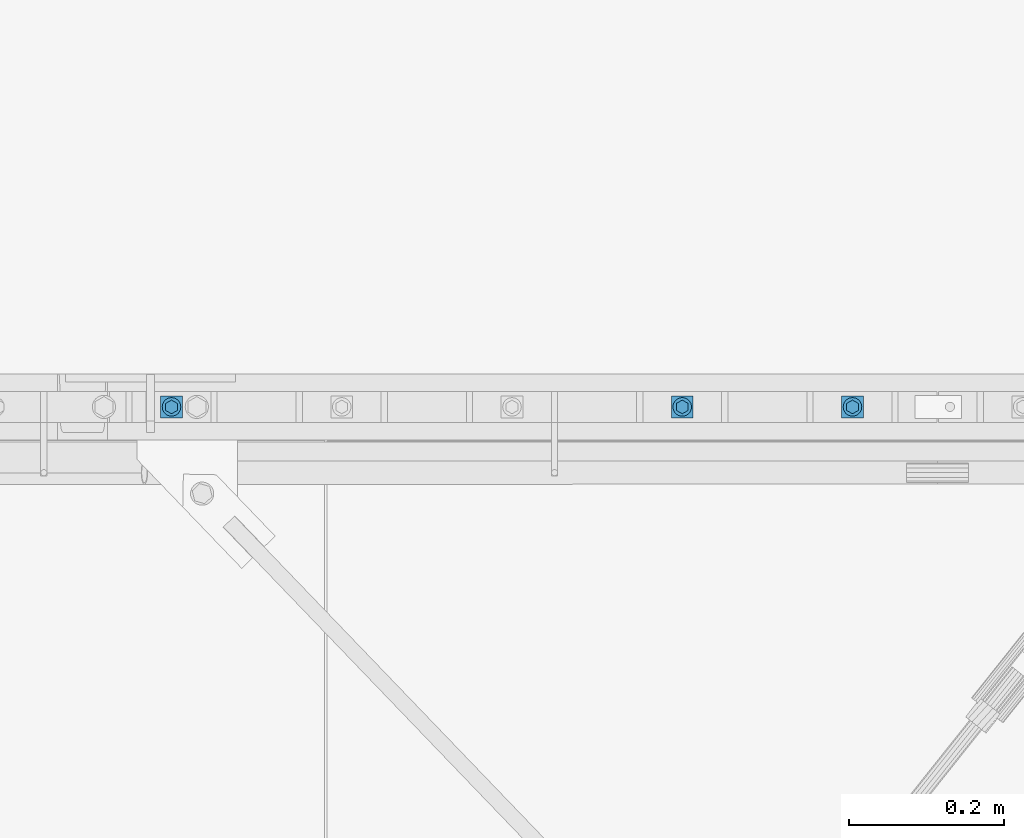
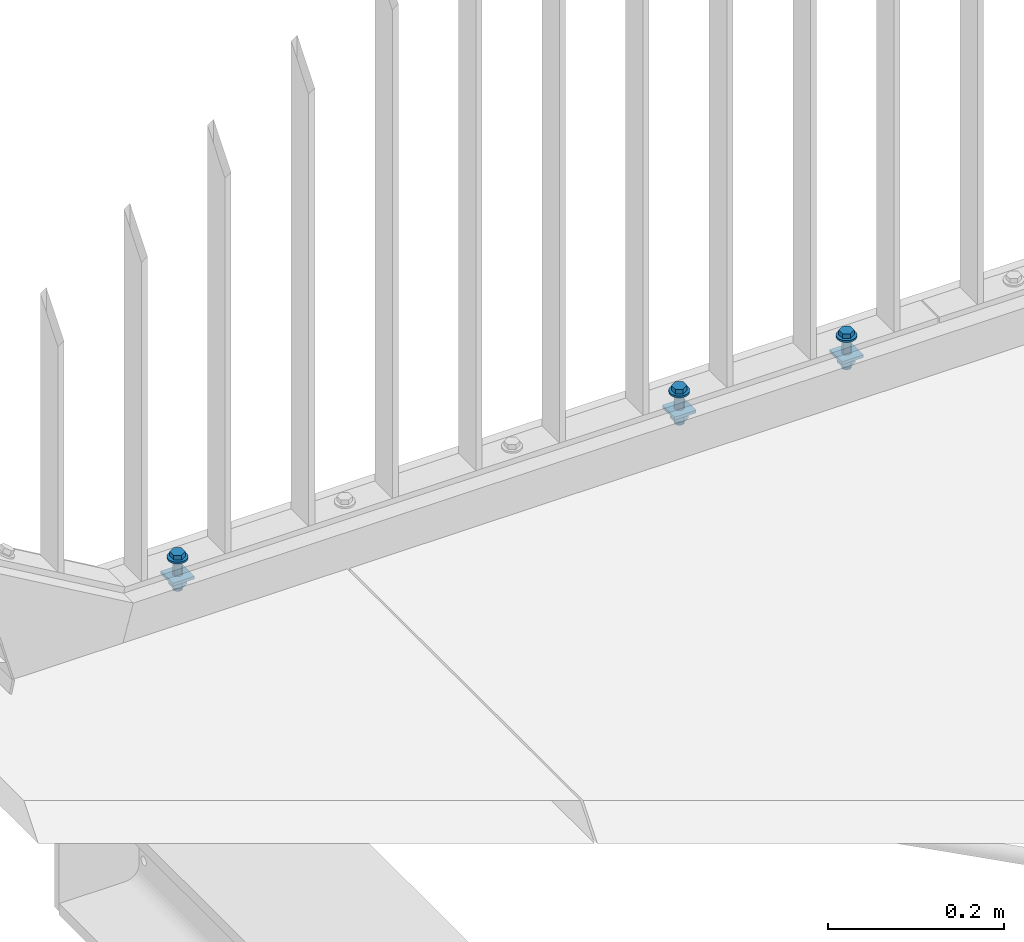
# One storey, part 128 of 145: 3 mechanical fasteners.
"""IFC2X3 building model written with IfcOpenShell, lengths in millimetres."""

from ifc_helpers import new_model, entity, si_unit, converted_unit, origin_with_axes, place, context, project, spatial, faceted_brep, element, save


model = new_model("IFC2X3")

# Units and contexts
model_context = context("Model", 3, precision=1e-09, world=origin_with_axes())
ifc_project = project(units=[si_unit("LENGTHUNIT", "METRE", prefix="MILLI"), si_unit("AREAUNIT", "SQUARE_METRE"), si_unit("VOLUMEUNIT", "CUBIC_METRE"), converted_unit("PLANEANGLEUNIT", "DEGREE", entity("IfcPlaneAngleMeasure", 0.01745329), si_unit("PLANEANGLEUNIT", "RADIAN"), dimensions=[0, 0, 0, 0, 0, 0, 0])], contexts=[model_context])

# Site, building, storey
site_placement = place(None, origin_with_axes())
site = spatial("IfcSite", under=ifc_project, at=site_placement, Name="BZ1 Grund- und Mittelschule 85716 Unterschlei?heim", CompositionType="ELEMENT")
building_placement = place(site_placement, origin_with_axes())
building = spatial("IfcBuilding", under=site, at=building_placement, Name="Struktur 1", CompositionType="ELEMENT")
storey_placement = place(building_placement, origin_with_axes())
storey = spatial("IfcBuildingStorey", under=building, at=storey_placement, Name="Default Storey", CompositionType="ELEMENT", Elevation=0.0)

# Mechanical fasteners
mechanical_fastener_1_placement = place(None, origin_with_axes())
element("IfcMechanicalFastener", 1, at=mechanical_fastener_1_placement, inside=storey, ObjectType="-", NominalDiameter=12.0, NominalLength=45.0, context=model_context, shape_type="Brep", body=[
    faceted_brep([(20910.141490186, -227.502, 1624.136364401), (20910.141490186, -227.502, 1621.636364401), (20909.910913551, -225.160916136, 1621.636364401), (20909.910913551, -225.160916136, 1624.136364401), (20909.228044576, -222.909798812, 1621.636364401), (20909.228044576, -222.909798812, 1624.136364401), (20908.119125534, -220.835157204, 1621.636364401), (20908.119125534, -220.835157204, 1624.136364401), (20906.62677156, -219.016718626, 1621.636364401), (20906.62677156, -219.016718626, 1624.136364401), (20904.808332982, -217.524364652, 1621.636364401), (20904.808332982, -217.524364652, 1624.136364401), (20902.733691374, -216.41544561, 1621.636364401), (20902.733691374, -216.41544561, 1624.136364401), (20900.48257405, -215.732576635, 1621.636364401), (20900.48257405, -215.732576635, 1624.136364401), (20898.141490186, -215.502, 1621.636364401), (20898.141490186, -215.502, 1624.136364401), (20895.800406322, -215.732576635, 1621.636364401), (20895.800406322, -215.732576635, 1624.136364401), (20893.549288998, -216.41544561, 1621.636364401), (20893.549288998, -216.41544561, 1624.136364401), (20891.47464739, -217.524364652, 1621.636364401), (20891.47464739, -217.524364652, 1624.136364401), (20889.656208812, -219.016718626, 1621.636364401), (20889.656208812, -219.016718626, 1624.136364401), (20888.163854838, -220.835157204, 1621.636364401), (20888.163854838, -220.835157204, 1624.136364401), (20887.054935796, -222.909798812, 1621.636364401), (20887.054935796, -222.909798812, 1624.136364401), (20886.372066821, -225.160916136, 1621.636364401), (20886.372066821, -225.160916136, 1624.136364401), (20886.141490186, -227.502, 1621.636364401), (20886.141490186, -227.502, 1624.136364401), (20886.372066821, -229.843083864, 1621.636364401), (20886.372066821, -229.843083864, 1624.136364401), (20887.054935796, -232.094201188, 1621.636364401), (20887.054935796, -232.094201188, 1624.136364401), (20888.163854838, -234.168842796, 1621.636364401), (20888.163854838, -234.168842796, 1624.136364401), (20889.656208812, -235.987281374, 1621.636364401), (20889.656208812, -235.987281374, 1624.136364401), (20891.47464739, -237.479635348, 1621.636364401), (20891.47464739, -237.479635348, 1624.136364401), (20893.549288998, -238.58855439, 1621.636364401), (20893.549288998, -238.58855439, 1624.136364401), (20895.800406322, -239.271423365, 1621.636364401), (20895.800406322, -239.271423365, 1624.136364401), (20898.141490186, -239.502, 1621.636364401), (20898.141490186, -239.502, 1624.136364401), (20900.48257405, -239.271423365, 1621.636364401), (20900.48257405, -239.271423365, 1624.136364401), (20902.733691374, -238.58855439, 1621.636364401), (20902.733691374, -238.58855439, 1624.136364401), (20904.808332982, -237.479635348, 1621.636364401), (20904.808332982, -237.479635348, 1624.136364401), (20906.62677156, -235.987281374, 1621.636364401), (20906.62677156, -235.987281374, 1624.136364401), (20908.119125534, -234.168842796, 1621.636364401), (20908.119125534, -234.168842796, 1624.136364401), (20909.228044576, -232.094201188, 1621.636364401), (20909.228044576, -232.094201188, 1624.136364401), (20909.910913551, -229.843083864, 1621.636364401), (20909.910913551, -229.843083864, 1624.136364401)], [[[0, 1, 2, 3]], [[3, 2, 4, 5]], [[5, 4, 6, 7]], [[7, 6, 8, 9]], [[9, 8, 10, 11]], [[11, 10, 12, 13]], [[13, 12, 14, 15]], [[15, 14, 16, 17]], [[17, 16, 18, 19]], [[19, 18, 20, 21]], [[21, 20, 22, 23]], [[23, 22, 24, 25]], [[25, 24, 26, 27]], [[27, 26, 28, 29]], [[29, 28, 30, 31]], [[31, 30, 32, 33]], [[33, 32, 34, 35]], [[35, 34, 36, 37]], [[37, 36, 38, 39]], [[39, 38, 40, 41]], [[41, 40, 42, 43]], [[43, 42, 44, 45]], [[45, 44, 46, 47]], [[47, 46, 48, 49]], [[49, 48, 50, 51]], [[51, 50, 52, 53]], [[53, 52, 54, 55]], [[55, 54, 56, 57]], [[57, 56, 58, 59]], [[59, 58, 60, 61]], [[61, 60, 62, 63]], [[63, 62, 1, 0]], [[0, 3, 5, 7, 9, 11, 13, 15, 17, 19, 21, 23, 25, 27, 29, 31, 33, 35, 37, 39, 41, 43, 45, 47, 49, 51, 53, 55, 57, 59, 61, 63]], [[1, 62, 60, 58, 56, 54, 52, 50, 48, 46, 44, 42, 40, 38, 36, 34, 32, 30, 28, 26, 24, 22, 20, 18, 16, 14, 12, 10, 8, 6, 4, 2]]]),
    faceted_brep([(20890.446854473, -223.0595, 1624.136364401), (20890.446854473, -223.0595, 1630.536364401), (20898.141490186, -218.617, 1630.536364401), (20898.141490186, -218.617, 1624.136364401), (20905.836125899, -223.0595, 1630.536364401), (20905.836125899, -223.0595, 1624.136364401), (20905.836125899, -231.9445, 1630.536364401), (20905.836125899, -231.9445, 1624.136364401), (20898.141490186, -236.387, 1630.536364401), (20898.141490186, -236.387, 1624.136364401), (20890.446854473, -231.9445, 1630.536364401), (20890.446854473, -231.9445, 1624.136364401)], [[[0, 1, 2, 3]], [[3, 2, 4, 5]], [[5, 4, 6, 7]], [[7, 6, 8, 9]], [[9, 8, 10, 11]], [[11, 10, 1, 0]], [[4, 2, 1, 10, 8, 6]], [[0, 3, 5, 7, 9, 11]]]),
    faceted_brep([(20904.141490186, -227.502, 1621.636364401), (20904.141490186, -227.502, 1599.833658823), (20903.684767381, -225.205899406, 1599.833658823), (20903.684767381, -225.205899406, 1621.636364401), (20902.384130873, -223.259359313, 1599.833658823), (20902.384130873, -223.259359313, 1621.636364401), (20900.43759078, -221.958722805, 1599.833658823), (20900.43759078, -221.958722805, 1621.636364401), (20898.141490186, -221.502, 1599.833658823), (20898.141490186, -221.502, 1621.636364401), (20895.845389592, -221.958722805, 1599.833658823), (20895.845389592, -221.958722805, 1621.636364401), (20893.898849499, -223.259359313, 1599.833658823), (20893.898849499, -223.259359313, 1621.636364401), (20892.598212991, -225.205899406, 1599.833658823), (20892.598212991, -225.205899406, 1621.636364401), (20892.141490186, -227.502, 1599.833658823), (20892.141490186, -227.502, 1621.636364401), (20892.598212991, -229.798100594, 1599.833658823), (20892.598212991, -229.798100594, 1621.636364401), (20893.898849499, -231.744640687, 1599.833658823), (20893.898849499, -231.744640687, 1621.636364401), (20895.845389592, -233.045277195, 1599.833658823), (20895.845389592, -233.045277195, 1621.636364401), (20898.141490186, -233.502, 1599.833658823), (20898.141490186, -233.502, 1621.636364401), (20900.43759078, -233.045277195, 1599.833658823), (20900.43759078, -233.045277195, 1621.636364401), (20902.384130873, -231.744640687, 1599.833658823), (20902.384130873, -231.744640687, 1621.636364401), (20903.684767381, -229.798100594, 1599.833658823), (20903.684767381, -229.798100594, 1621.636364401)], [[[0, 1, 2, 3]], [[3, 2, 4, 5]], [[5, 4, 6, 7]], [[7, 6, 8, 9]], [[9, 8, 10, 11]], [[11, 10, 12, 13]], [[13, 12, 14, 15]], [[15, 14, 16, 17]], [[17, 16, 18, 19]], [[19, 18, 20, 21]], [[21, 20, 22, 23]], [[23, 22, 24, 25]], [[25, 24, 26, 27]], [[27, 26, 28, 29]], [[29, 28, 30, 31]], [[31, 30, 1, 0]], [[0, 3, 5, 7, 9, 11, 13, 15, 17, 19, 21, 23, 25, 27, 29, 31]], [[1, 30, 28, 26, 24, 22, 20, 18, 16, 14, 12, 10, 8, 6, 4, 2]]]),
    faceted_brep([(20883.999354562, -213.359864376, 1595.833658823), (20883.999354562, -213.359864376, 1599.833658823), (20912.28362581, -213.359864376, 1599.833658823), (20912.28362581, -213.359864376, 1595.833658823), (20912.28362581, -241.644135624, 1599.833658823), (20912.28362581, -241.644135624, 1595.833658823), (20883.999354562, -241.644135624, 1599.833658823), (20883.999354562, -241.644135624, 1595.833658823)], [[[0, 1, 2, 3]], [[3, 2, 4, 5]], [[5, 4, 6, 7]], [[7, 6, 1, 0]], [[4, 2, 1, 6]], [[0, 3, 5, 7]]]),
    faceted_brep([(20889.004922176, -222.227, 1585.833658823), (20889.004922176, -222.227, 1595.833658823), (20898.141490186, -216.952, 1595.833658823), (20898.141490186, -216.952, 1585.833658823), (20907.278058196, -222.227, 1595.833658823), (20907.278058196, -222.227, 1585.833658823), (20907.278058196, -232.777, 1595.833658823), (20907.278058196, -232.777, 1585.833658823), (20898.141490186, -238.052, 1595.833658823), (20898.141490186, -238.052, 1585.833658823), (20889.004922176, -232.777, 1595.833658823), (20889.004922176, -232.777, 1585.833658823)], [[[0, 1, 2, 3]], [[3, 2, 4, 5]], [[5, 4, 6, 7]], [[7, 6, 8, 9]], [[9, 8, 10, 11]], [[11, 10, 1, 0]], [[4, 2, 1, 10, 8, 6]], [[0, 3, 5, 7, 9, 11]]]),
    faceted_brep([(20904.141490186, -227.502, 1585.833658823), (20904.141490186, -227.502, 1579.136364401), (20903.684767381, -225.205899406, 1579.136364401), (20903.684767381, -225.205899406, 1585.833658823), (20902.384130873, -223.259359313, 1579.136364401), (20902.384130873, -223.259359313, 1585.833658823), (20900.43759078, -221.958722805, 1579.136364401), (20900.43759078, -221.958722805, 1585.833658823), (20898.141490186, -221.502, 1579.136364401), (20898.141490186, -221.502, 1585.833658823), (20895.845389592, -221.958722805, 1579.136364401), (20895.845389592, -221.958722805, 1585.833658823), (20893.898849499, -223.259359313, 1579.136364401), (20893.898849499, -223.259359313, 1585.833658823), (20892.598212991, -225.205899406, 1579.136364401), (20892.598212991, -225.205899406, 1585.833658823), (20892.141490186, -227.502, 1579.136364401), (20892.141490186, -227.502, 1585.833658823), (20892.598212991, -229.798100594, 1579.136364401), (20892.598212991, -229.798100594, 1585.833658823), (20893.898849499, -231.744640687, 1579.136364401), (20893.898849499, -231.744640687, 1585.833658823), (20895.845389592, -233.045277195, 1579.136364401), (20895.845389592, -233.045277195, 1585.833658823), (20898.141490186, -233.502, 1579.136364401), (20898.141490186, -233.502, 1585.833658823), (20900.43759078, -233.045277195, 1579.136364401), (20900.43759078, -233.045277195, 1585.833658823), (20902.384130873, -231.744640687, 1579.136364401), (20902.384130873, -231.744640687, 1585.833658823), (20903.684767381, -229.798100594, 1579.136364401), (20903.684767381, -229.798100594, 1585.833658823)], [[[0, 1, 2, 3]], [[3, 2, 4, 5]], [[5, 4, 6, 7]], [[7, 6, 8, 9]], [[9, 8, 10, 11]], [[11, 10, 12, 13]], [[13, 12, 14, 15]], [[15, 14, 16, 17]], [[17, 16, 18, 19]], [[19, 18, 20, 21]], [[21, 20, 22, 23]], [[23, 22, 24, 25]], [[25, 24, 26, 27]], [[27, 26, 28, 29]], [[29, 28, 30, 31]], [[31, 30, 1, 0]], [[0, 3, 5, 7, 9, 11, 13, 15, 17, 19, 21, 23, 25, 27, 29, 31]], [[1, 30, 28, 26, 24, 22, 20, 18, 16, 14, 12, 10, 8, 6, 4, 2]]]),
])
mechanical_fastener_2_placement = place(None, origin_with_axes())
element("IfcMechanicalFastener", 2, at=mechanical_fastener_2_placement, inside=storey, ObjectType="-", NominalDiameter=12.0, NominalLength=45.0, context=model_context, shape_type="Brep", body=[
    faceted_brep([(20250.141490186, -227.502, 1624.136364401), (20250.141490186, -227.502, 1621.636364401), (20249.910913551, -225.160916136, 1621.636364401), (20249.910913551, -225.160916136, 1624.136364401), (20249.228044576, -222.909798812, 1621.636364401), (20249.228044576, -222.909798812, 1624.136364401), (20248.119125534, -220.835157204, 1621.636364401), (20248.119125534, -220.835157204, 1624.136364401), (20246.62677156, -219.016718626, 1621.636364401), (20246.62677156, -219.016718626, 1624.136364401), (20244.808332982, -217.524364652, 1621.636364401), (20244.808332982, -217.524364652, 1624.136364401), (20242.733691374, -216.41544561, 1621.636364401), (20242.733691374, -216.41544561, 1624.136364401), (20240.48257405, -215.732576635, 1621.636364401), (20240.48257405, -215.732576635, 1624.136364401), (20238.141490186, -215.502, 1621.636364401), (20238.141490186, -215.502, 1624.136364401), (20235.800406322, -215.732576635, 1621.636364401), (20235.800406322, -215.732576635, 1624.136364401), (20233.549288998, -216.41544561, 1621.636364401), (20233.549288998, -216.41544561, 1624.136364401), (20231.47464739, -217.524364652, 1621.636364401), (20231.47464739, -217.524364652, 1624.136364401), (20229.656208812, -219.016718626, 1621.636364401), (20229.656208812, -219.016718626, 1624.136364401), (20228.163854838, -220.835157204, 1621.636364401), (20228.163854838, -220.835157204, 1624.136364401), (20227.054935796, -222.909798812, 1621.636364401), (20227.054935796, -222.909798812, 1624.136364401), (20226.372066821, -225.160916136, 1621.636364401), (20226.372066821, -225.160916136, 1624.136364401), (20226.141490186, -227.502, 1621.636364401), (20226.141490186, -227.502, 1624.136364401), (20226.372066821, -229.843083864, 1621.636364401), (20226.372066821, -229.843083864, 1624.136364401), (20227.054935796, -232.094201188, 1621.636364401), (20227.054935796, -232.094201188, 1624.136364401), (20228.163854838, -234.168842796, 1621.636364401), (20228.163854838, -234.168842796, 1624.136364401), (20229.656208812, -235.987281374, 1621.636364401), (20229.656208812, -235.987281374, 1624.136364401), (20231.47464739, -237.479635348, 1621.636364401), (20231.47464739, -237.479635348, 1624.136364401), (20233.549288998, -238.58855439, 1621.636364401), (20233.549288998, -238.58855439, 1624.136364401), (20235.800406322, -239.271423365, 1621.636364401), (20235.800406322, -239.271423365, 1624.136364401), (20238.141490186, -239.502, 1621.636364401), (20238.141490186, -239.502, 1624.136364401), (20240.48257405, -239.271423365, 1621.636364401), (20240.48257405, -239.271423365, 1624.136364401), (20242.733691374, -238.58855439, 1621.636364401), (20242.733691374, -238.58855439, 1624.136364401), (20244.808332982, -237.479635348, 1621.636364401), (20244.808332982, -237.479635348, 1624.136364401), (20246.62677156, -235.987281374, 1621.636364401), (20246.62677156, -235.987281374, 1624.136364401), (20248.119125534, -234.168842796, 1621.636364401), (20248.119125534, -234.168842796, 1624.136364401), (20249.228044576, -232.094201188, 1621.636364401), (20249.228044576, -232.094201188, 1624.136364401), (20249.910913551, -229.843083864, 1621.636364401), (20249.910913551, -229.843083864, 1624.136364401)], [[[0, 1, 2, 3]], [[3, 2, 4, 5]], [[5, 4, 6, 7]], [[7, 6, 8, 9]], [[9, 8, 10, 11]], [[11, 10, 12, 13]], [[13, 12, 14, 15]], [[15, 14, 16, 17]], [[17, 16, 18, 19]], [[19, 18, 20, 21]], [[21, 20, 22, 23]], [[23, 22, 24, 25]], [[25, 24, 26, 27]], [[27, 26, 28, 29]], [[29, 28, 30, 31]], [[31, 30, 32, 33]], [[33, 32, 34, 35]], [[35, 34, 36, 37]], [[37, 36, 38, 39]], [[39, 38, 40, 41]], [[41, 40, 42, 43]], [[43, 42, 44, 45]], [[45, 44, 46, 47]], [[47, 46, 48, 49]], [[49, 48, 50, 51]], [[51, 50, 52, 53]], [[53, 52, 54, 55]], [[55, 54, 56, 57]], [[57, 56, 58, 59]], [[59, 58, 60, 61]], [[61, 60, 62, 63]], [[63, 62, 1, 0]], [[0, 3, 5, 7, 9, 11, 13, 15, 17, 19, 21, 23, 25, 27, 29, 31, 33, 35, 37, 39, 41, 43, 45, 47, 49, 51, 53, 55, 57, 59, 61, 63]], [[1, 62, 60, 58, 56, 54, 52, 50, 48, 46, 44, 42, 40, 38, 36, 34, 32, 30, 28, 26, 24, 22, 20, 18, 16, 14, 12, 10, 8, 6, 4, 2]]]),
    faceted_brep([(20230.446854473, -223.0595, 1624.136364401), (20230.446854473, -223.0595, 1630.536364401), (20238.141490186, -218.617, 1630.536364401), (20238.141490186, -218.617, 1624.136364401), (20245.836125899, -223.0595, 1630.536364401), (20245.836125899, -223.0595, 1624.136364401), (20245.836125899, -231.9445, 1630.536364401), (20245.836125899, -231.9445, 1624.136364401), (20238.141490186, -236.387, 1630.536364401), (20238.141490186, -236.387, 1624.136364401), (20230.446854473, -231.9445, 1630.536364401), (20230.446854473, -231.9445, 1624.136364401)], [[[0, 1, 2, 3]], [[3, 2, 4, 5]], [[5, 4, 6, 7]], [[7, 6, 8, 9]], [[9, 8, 10, 11]], [[11, 10, 1, 0]], [[4, 2, 1, 10, 8, 6]], [[0, 3, 5, 7, 9, 11]]]),
    faceted_brep([(20244.141490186, -227.502, 1621.636364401), (20244.141490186, -227.502, 1599.833658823), (20243.684767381, -225.205899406, 1599.833658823), (20243.684767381, -225.205899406, 1621.636364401), (20242.384130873, -223.259359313, 1599.833658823), (20242.384130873, -223.259359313, 1621.636364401), (20240.43759078, -221.958722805, 1599.833658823), (20240.43759078, -221.958722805, 1621.636364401), (20238.141490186, -221.502, 1599.833658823), (20238.141490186, -221.502, 1621.636364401), (20235.845389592, -221.958722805, 1599.833658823), (20235.845389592, -221.958722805, 1621.636364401), (20233.898849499, -223.259359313, 1599.833658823), (20233.898849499, -223.259359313, 1621.636364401), (20232.598212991, -225.205899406, 1599.833658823), (20232.598212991, -225.205899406, 1621.636364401), (20232.141490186, -227.502, 1599.833658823), (20232.141490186, -227.502, 1621.636364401), (20232.598212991, -229.798100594, 1599.833658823), (20232.598212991, -229.798100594, 1621.636364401), (20233.898849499, -231.744640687, 1599.833658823), (20233.898849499, -231.744640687, 1621.636364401), (20235.845389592, -233.045277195, 1599.833658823), (20235.845389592, -233.045277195, 1621.636364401), (20238.141490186, -233.502, 1599.833658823), (20238.141490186, -233.502, 1621.636364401), (20240.43759078, -233.045277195, 1599.833658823), (20240.43759078, -233.045277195, 1621.636364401), (20242.384130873, -231.744640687, 1599.833658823), (20242.384130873, -231.744640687, 1621.636364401), (20243.684767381, -229.798100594, 1599.833658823), (20243.684767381, -229.798100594, 1621.636364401)], [[[0, 1, 2, 3]], [[3, 2, 4, 5]], [[5, 4, 6, 7]], [[7, 6, 8, 9]], [[9, 8, 10, 11]], [[11, 10, 12, 13]], [[13, 12, 14, 15]], [[15, 14, 16, 17]], [[17, 16, 18, 19]], [[19, 18, 20, 21]], [[21, 20, 22, 23]], [[23, 22, 24, 25]], [[25, 24, 26, 27]], [[27, 26, 28, 29]], [[29, 28, 30, 31]], [[31, 30, 1, 0]], [[0, 3, 5, 7, 9, 11, 13, 15, 17, 19, 21, 23, 25, 27, 29, 31]], [[1, 30, 28, 26, 24, 22, 20, 18, 16, 14, 12, 10, 8, 6, 4, 2]]]),
    faceted_brep([(20223.999354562, -213.359864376, 1595.833658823), (20223.999354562, -213.359864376, 1599.833658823), (20252.28362581, -213.359864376, 1599.833658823), (20252.28362581, -213.359864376, 1595.833658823), (20252.28362581, -241.644135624, 1599.833658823), (20252.28362581, -241.644135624, 1595.833658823), (20223.999354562, -241.644135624, 1599.833658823), (20223.999354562, -241.644135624, 1595.833658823)], [[[0, 1, 2, 3]], [[3, 2, 4, 5]], [[5, 4, 6, 7]], [[7, 6, 1, 0]], [[4, 2, 1, 6]], [[0, 3, 5, 7]]]),
    faceted_brep([(20229.004922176, -222.227, 1585.833658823), (20229.004922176, -222.227, 1595.833658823), (20238.141490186, -216.952, 1595.833658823), (20238.141490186, -216.952, 1585.833658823), (20247.278058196, -222.227, 1595.833658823), (20247.278058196, -222.227, 1585.833658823), (20247.278058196, -232.777, 1595.833658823), (20247.278058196, -232.777, 1585.833658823), (20238.141490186, -238.052, 1595.833658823), (20238.141490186, -238.052, 1585.833658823), (20229.004922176, -232.777, 1595.833658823), (20229.004922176, -232.777, 1585.833658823)], [[[0, 1, 2, 3]], [[3, 2, 4, 5]], [[5, 4, 6, 7]], [[7, 6, 8, 9]], [[9, 8, 10, 11]], [[11, 10, 1, 0]], [[4, 2, 1, 10, 8, 6]], [[0, 3, 5, 7, 9, 11]]]),
    faceted_brep([(20244.141490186, -227.502, 1585.833658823), (20244.141490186, -227.502, 1579.136364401), (20243.684767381, -225.205899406, 1579.136364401), (20243.684767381, -225.205899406, 1585.833658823), (20242.384130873, -223.259359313, 1579.136364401), (20242.384130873, -223.259359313, 1585.833658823), (20240.43759078, -221.958722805, 1579.136364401), (20240.43759078, -221.958722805, 1585.833658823), (20238.141490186, -221.502, 1579.136364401), (20238.141490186, -221.502, 1585.833658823), (20235.845389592, -221.958722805, 1579.136364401), (20235.845389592, -221.958722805, 1585.833658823), (20233.898849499, -223.259359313, 1579.136364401), (20233.898849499, -223.259359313, 1585.833658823), (20232.598212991, -225.205899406, 1579.136364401), (20232.598212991, -225.205899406, 1585.833658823), (20232.141490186, -227.502, 1579.136364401), (20232.141490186, -227.502, 1585.833658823), (20232.598212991, -229.798100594, 1579.136364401), (20232.598212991, -229.798100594, 1585.833658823), (20233.898849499, -231.744640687, 1579.136364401), (20233.898849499, -231.744640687, 1585.833658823), (20235.845389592, -233.045277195, 1579.136364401), (20235.845389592, -233.045277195, 1585.833658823), (20238.141490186, -233.502, 1579.136364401), (20238.141490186, -233.502, 1585.833658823), (20240.43759078, -233.045277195, 1579.136364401), (20240.43759078, -233.045277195, 1585.833658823), (20242.384130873, -231.744640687, 1579.136364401), (20242.384130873, -231.744640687, 1585.833658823), (20243.684767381, -229.798100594, 1579.136364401), (20243.684767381, -229.798100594, 1585.833658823)], [[[0, 1, 2, 3]], [[3, 2, 4, 5]], [[5, 4, 6, 7]], [[7, 6, 8, 9]], [[9, 8, 10, 11]], [[11, 10, 12, 13]], [[13, 12, 14, 15]], [[15, 14, 16, 17]], [[17, 16, 18, 19]], [[19, 18, 20, 21]], [[21, 20, 22, 23]], [[23, 22, 24, 25]], [[25, 24, 26, 27]], [[27, 26, 28, 29]], [[29, 28, 30, 31]], [[31, 30, 1, 0]], [[0, 3, 5, 7, 9, 11, 13, 15, 17, 19, 21, 23, 25, 27, 29, 31]], [[1, 30, 28, 26, 24, 22, 20, 18, 16, 14, 12, 10, 8, 6, 4, 2]]]),
])
mechanical_fastener_3_placement = place(None, origin_with_axes())
element("IfcMechanicalFastener", 3, at=mechanical_fastener_3_placement, inside=storey, ObjectType="-", NominalDiameter=12.0, NominalLength=45.0, context=model_context, shape_type="Brep", body=[
    faceted_brep([(21130.141490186, -227.502, 1624.136364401), (21130.141490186, -227.502, 1621.636364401), (21129.910913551, -225.160916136, 1621.636364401), (21129.910913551, -225.160916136, 1624.136364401), (21129.228044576, -222.909798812, 1621.636364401), (21129.228044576, -222.909798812, 1624.136364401), (21128.119125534, -220.835157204, 1621.636364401), (21128.119125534, -220.835157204, 1624.136364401), (21126.62677156, -219.016718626, 1621.636364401), (21126.62677156, -219.016718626, 1624.136364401), (21124.808332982, -217.524364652, 1621.636364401), (21124.808332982, -217.524364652, 1624.136364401), (21122.733691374, -216.41544561, 1621.636364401), (21122.733691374, -216.41544561, 1624.136364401), (21120.48257405, -215.732576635, 1621.636364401), (21120.48257405, -215.732576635, 1624.136364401), (21118.141490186, -215.502, 1621.636364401), (21118.141490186, -215.502, 1624.136364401), (21115.800406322, -215.732576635, 1621.636364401), (21115.800406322, -215.732576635, 1624.136364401), (21113.549288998, -216.41544561, 1621.636364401), (21113.549288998, -216.41544561, 1624.136364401), (21111.47464739, -217.524364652, 1621.636364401), (21111.47464739, -217.524364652, 1624.136364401), (21109.656208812, -219.016718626, 1621.636364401), (21109.656208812, -219.016718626, 1624.136364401), (21108.163854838, -220.835157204, 1621.636364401), (21108.163854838, -220.835157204, 1624.136364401), (21107.054935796, -222.909798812, 1621.636364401), (21107.054935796, -222.909798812, 1624.136364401), (21106.372066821, -225.160916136, 1621.636364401), (21106.372066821, -225.160916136, 1624.136364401), (21106.141490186, -227.502, 1621.636364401), (21106.141490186, -227.502, 1624.136364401), (21106.372066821, -229.843083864, 1621.636364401), (21106.372066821, -229.843083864, 1624.136364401), (21107.054935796, -232.094201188, 1621.636364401), (21107.054935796, -232.094201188, 1624.136364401), (21108.163854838, -234.168842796, 1621.636364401), (21108.163854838, -234.168842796, 1624.136364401), (21109.656208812, -235.987281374, 1621.636364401), (21109.656208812, -235.987281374, 1624.136364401), (21111.47464739, -237.479635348, 1621.636364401), (21111.47464739, -237.479635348, 1624.136364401), (21113.549288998, -238.58855439, 1621.636364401), (21113.549288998, -238.58855439, 1624.136364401), (21115.800406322, -239.271423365, 1621.636364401), (21115.800406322, -239.271423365, 1624.136364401), (21118.141490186, -239.502, 1621.636364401), (21118.141490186, -239.502, 1624.136364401), (21120.48257405, -239.271423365, 1621.636364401), (21120.48257405, -239.271423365, 1624.136364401), (21122.733691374, -238.58855439, 1621.636364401), (21122.733691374, -238.58855439, 1624.136364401), (21124.808332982, -237.479635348, 1621.636364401), (21124.808332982, -237.479635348, 1624.136364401), (21126.62677156, -235.987281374, 1621.636364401), (21126.62677156, -235.987281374, 1624.136364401), (21128.119125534, -234.168842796, 1621.636364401), (21128.119125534, -234.168842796, 1624.136364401), (21129.228044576, -232.094201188, 1621.636364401), (21129.228044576, -232.094201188, 1624.136364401), (21129.910913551, -229.843083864, 1621.636364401), (21129.910913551, -229.843083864, 1624.136364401)], [[[0, 1, 2, 3]], [[3, 2, 4, 5]], [[5, 4, 6, 7]], [[7, 6, 8, 9]], [[9, 8, 10, 11]], [[11, 10, 12, 13]], [[13, 12, 14, 15]], [[15, 14, 16, 17]], [[17, 16, 18, 19]], [[19, 18, 20, 21]], [[21, 20, 22, 23]], [[23, 22, 24, 25]], [[25, 24, 26, 27]], [[27, 26, 28, 29]], [[29, 28, 30, 31]], [[31, 30, 32, 33]], [[33, 32, 34, 35]], [[35, 34, 36, 37]], [[37, 36, 38, 39]], [[39, 38, 40, 41]], [[41, 40, 42, 43]], [[43, 42, 44, 45]], [[45, 44, 46, 47]], [[47, 46, 48, 49]], [[49, 48, 50, 51]], [[51, 50, 52, 53]], [[53, 52, 54, 55]], [[55, 54, 56, 57]], [[57, 56, 58, 59]], [[59, 58, 60, 61]], [[61, 60, 62, 63]], [[63, 62, 1, 0]], [[0, 3, 5, 7, 9, 11, 13, 15, 17, 19, 21, 23, 25, 27, 29, 31, 33, 35, 37, 39, 41, 43, 45, 47, 49, 51, 53, 55, 57, 59, 61, 63]], [[1, 62, 60, 58, 56, 54, 52, 50, 48, 46, 44, 42, 40, 38, 36, 34, 32, 30, 28, 26, 24, 22, 20, 18, 16, 14, 12, 10, 8, 6, 4, 2]]]),
    faceted_brep([(21110.446854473, -223.0595, 1624.136364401), (21110.446854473, -223.0595, 1630.536364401), (21118.141490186, -218.617, 1630.536364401), (21118.141490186, -218.617, 1624.136364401), (21125.836125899, -223.0595, 1630.536364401), (21125.836125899, -223.0595, 1624.136364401), (21125.836125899, -231.9445, 1630.536364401), (21125.836125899, -231.9445, 1624.136364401), (21118.141490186, -236.387, 1630.536364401), (21118.141490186, -236.387, 1624.136364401), (21110.446854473, -231.9445, 1630.536364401), (21110.446854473, -231.9445, 1624.136364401)], [[[0, 1, 2, 3]], [[3, 2, 4, 5]], [[5, 4, 6, 7]], [[7, 6, 8, 9]], [[9, 8, 10, 11]], [[11, 10, 1, 0]], [[4, 2, 1, 10, 8, 6]], [[0, 3, 5, 7, 9, 11]]]),
    faceted_brep([(21124.141490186, -227.502, 1621.636364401), (21124.141490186, -227.502, 1599.833658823), (21123.684767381, -225.205899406, 1599.833658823), (21123.684767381, -225.205899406, 1621.636364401), (21122.384130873, -223.259359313, 1599.833658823), (21122.384130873, -223.259359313, 1621.636364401), (21120.43759078, -221.958722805, 1599.833658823), (21120.43759078, -221.958722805, 1621.636364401), (21118.141490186, -221.502, 1599.833658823), (21118.141490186, -221.502, 1621.636364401), (21115.845389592, -221.958722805, 1599.833658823), (21115.845389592, -221.958722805, 1621.636364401), (21113.898849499, -223.259359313, 1599.833658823), (21113.898849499, -223.259359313, 1621.636364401), (21112.598212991, -225.205899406, 1599.833658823), (21112.598212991, -225.205899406, 1621.636364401), (21112.141490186, -227.502, 1599.833658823), (21112.141490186, -227.502, 1621.636364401), (21112.598212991, -229.798100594, 1599.833658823), (21112.598212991, -229.798100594, 1621.636364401), (21113.898849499, -231.744640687, 1599.833658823), (21113.898849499, -231.744640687, 1621.636364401), (21115.845389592, -233.045277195, 1599.833658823), (21115.845389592, -233.045277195, 1621.636364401), (21118.141490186, -233.502, 1599.833658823), (21118.141490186, -233.502, 1621.636364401), (21120.43759078, -233.045277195, 1599.833658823), (21120.43759078, -233.045277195, 1621.636364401), (21122.384130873, -231.744640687, 1599.833658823), (21122.384130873, -231.744640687, 1621.636364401), (21123.684767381, -229.798100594, 1599.833658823), (21123.684767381, -229.798100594, 1621.636364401)], [[[0, 1, 2, 3]], [[3, 2, 4, 5]], [[5, 4, 6, 7]], [[7, 6, 8, 9]], [[9, 8, 10, 11]], [[11, 10, 12, 13]], [[13, 12, 14, 15]], [[15, 14, 16, 17]], [[17, 16, 18, 19]], [[19, 18, 20, 21]], [[21, 20, 22, 23]], [[23, 22, 24, 25]], [[25, 24, 26, 27]], [[27, 26, 28, 29]], [[29, 28, 30, 31]], [[31, 30, 1, 0]], [[0, 3, 5, 7, 9, 11, 13, 15, 17, 19, 21, 23, 25, 27, 29, 31]], [[1, 30, 28, 26, 24, 22, 20, 18, 16, 14, 12, 10, 8, 6, 4, 2]]]),
    faceted_brep([(21103.999354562, -213.359864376, 1595.833658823), (21103.999354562, -213.359864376, 1599.833658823), (21132.28362581, -213.359864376, 1599.833658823), (21132.28362581, -213.359864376, 1595.833658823), (21132.28362581, -241.644135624, 1599.833658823), (21132.28362581, -241.644135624, 1595.833658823), (21103.999354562, -241.644135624, 1599.833658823), (21103.999354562, -241.644135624, 1595.833658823)], [[[0, 1, 2, 3]], [[3, 2, 4, 5]], [[5, 4, 6, 7]], [[7, 6, 1, 0]], [[4, 2, 1, 6]], [[0, 3, 5, 7]]]),
    faceted_brep([(21109.004922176, -222.227, 1585.833658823), (21109.004922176, -222.227, 1595.833658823), (21118.141490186, -216.952, 1595.833658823), (21118.141490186, -216.952, 1585.833658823), (21127.278058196, -222.227, 1595.833658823), (21127.278058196, -222.227, 1585.833658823), (21127.278058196, -232.777, 1595.833658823), (21127.278058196, -232.777, 1585.833658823), (21118.141490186, -238.052, 1595.833658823), (21118.141490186, -238.052, 1585.833658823), (21109.004922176, -232.777, 1595.833658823), (21109.004922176, -232.777, 1585.833658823)], [[[0, 1, 2, 3]], [[3, 2, 4, 5]], [[5, 4, 6, 7]], [[7, 6, 8, 9]], [[9, 8, 10, 11]], [[11, 10, 1, 0]], [[4, 2, 1, 10, 8, 6]], [[0, 3, 5, 7, 9, 11]]]),
    faceted_brep([(21124.141490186, -227.502, 1585.833658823), (21124.141490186, -227.502, 1579.136364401), (21123.684767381, -225.205899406, 1579.136364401), (21123.684767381, -225.205899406, 1585.833658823), (21122.384130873, -223.259359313, 1579.136364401), (21122.384130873, -223.259359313, 1585.833658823), (21120.43759078, -221.958722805, 1579.136364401), (21120.43759078, -221.958722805, 1585.833658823), (21118.141490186, -221.502, 1579.136364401), (21118.141490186, -221.502, 1585.833658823), (21115.845389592, -221.958722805, 1579.136364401), (21115.845389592, -221.958722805, 1585.833658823), (21113.898849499, -223.259359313, 1579.136364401), (21113.898849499, -223.259359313, 1585.833658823), (21112.598212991, -225.205899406, 1579.136364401), (21112.598212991, -225.205899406, 1585.833658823), (21112.141490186, -227.502, 1579.136364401), (21112.141490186, -227.502, 1585.833658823), (21112.598212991, -229.798100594, 1579.136364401), (21112.598212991, -229.798100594, 1585.833658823), (21113.898849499, -231.744640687, 1579.136364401), (21113.898849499, -231.744640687, 1585.833658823), (21115.845389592, -233.045277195, 1579.136364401), (21115.845389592, -233.045277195, 1585.833658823), (21118.141490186, -233.502, 1579.136364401), (21118.141490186, -233.502, 1585.833658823), (21120.43759078, -233.045277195, 1579.136364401), (21120.43759078, -233.045277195, 1585.833658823), (21122.384130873, -231.744640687, 1579.136364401), (21122.384130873, -231.744640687, 1585.833658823), (21123.684767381, -229.798100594, 1579.136364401), (21123.684767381, -229.798100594, 1585.833658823)], [[[0, 1, 2, 3]], [[3, 2, 4, 5]], [[5, 4, 6, 7]], [[7, 6, 8, 9]], [[9, 8, 10, 11]], [[11, 10, 12, 13]], [[13, 12, 14, 15]], [[15, 14, 16, 17]], [[17, 16, 18, 19]], [[19, 18, 20, 21]], [[21, 20, 22, 23]], [[23, 22, 24, 25]], [[25, 24, 26, 27]], [[27, 26, 28, 29]], [[29, 28, 30, 31]], [[31, 30, 1, 0]], [[0, 3, 5, 7, 9, 11, 13, 15, 17, 19, 21, 23, 25, 27, 29, 31]], [[1, 30, 28, 26, 24, 22, 20, 18, 16, 14, 12, 10, 8, 6, 4, 2]]]),
])

save(model, "model.ifc")
